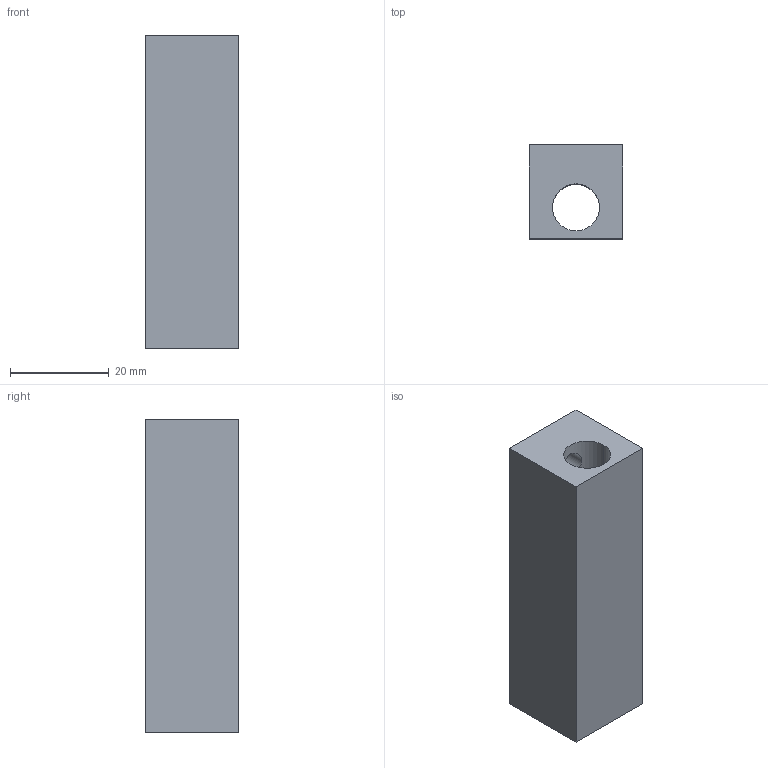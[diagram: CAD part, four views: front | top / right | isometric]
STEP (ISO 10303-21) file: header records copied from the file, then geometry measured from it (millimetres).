
FILE_DESCRIPTION (( 'STEP AP203' ), '1' );
FILE_NAME ('269-18-306.STEP', '2020-03-02T22:30:05', ( '' ), ( '' ), 'SwSTEP 2.0', 'SolidWorks 2017', '' );
FILE_SCHEMA (( 'CONFIG_CONTROL_DESIGN' ));
Length unit declared in the file: inch
Products named in the file (1): 269-18-306
Bounding box: 19.05 x 19.05 x 63.5 mm (x, y, z)
Volume: 18187.3 mm3; surface area: 7504.9 mm2
Topology: 1 solids, 1 shells, 12 faces, 30 edges, 20 vertices
Faces by surface type: cylinder 6, plane 6
Entity records: 569 total; most frequent: CARTESIAN_POINT 187, ORIENTED_EDGE 60, DIRECTION 60, EDGE_CURVE 30, AXIS2_PLACEMENT_3D 21, VERTEX_POINT 20, VECTOR 18, LINE 18
